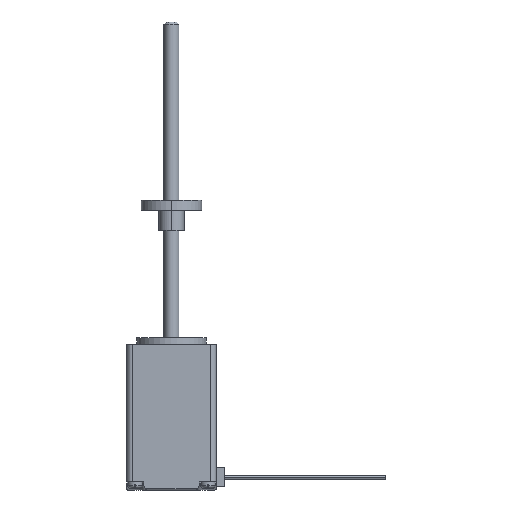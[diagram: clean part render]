
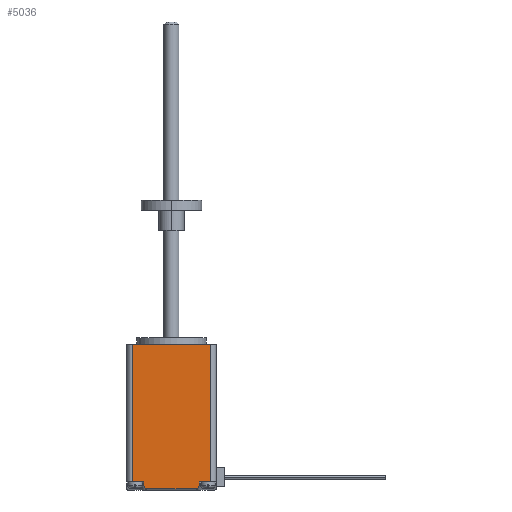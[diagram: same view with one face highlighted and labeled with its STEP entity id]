
A CAD part, left-side view. The second image highlights one B-rep face of the part: STEP entity #5036.
In plain terms, the highlighted planar face has unit normal (-1, 0, 0) as drawn and (0, -1, 0) by its records, which use the part's own axes.
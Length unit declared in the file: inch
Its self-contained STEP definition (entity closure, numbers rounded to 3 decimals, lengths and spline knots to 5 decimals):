
#201 = LINE ( 'NONE', #7251, #6997 ) ;
#332 = VERTEX_POINT ( 'NONE', #3775 ) ;
#342 = DIRECTION ( 'NONE',  ( 1., 0., 0. ) ) ;
#437 = EDGE_CURVE ( 'NONE', #332, #4330, #737, .T. ) ;
#577 = DIRECTION ( 'NONE',  ( 0., 0., -1. ) ) ;
#614 = VECTOR ( 'NONE', #577, 39.37008 ) ;
#627 = EDGE_CURVE ( 'NONE', #4313, #6635, #201, .T. ) ;
#737 = LINE ( 'NONE', #4791, #5057 ) ;
#892 = CARTESIAN_POINT ( 'NONE',  ( 0.343, -0.555, 0.1 ) ) ;
#1020 = DIRECTION ( 'NONE',  ( 0.5, 0., -0.866 ) ) ;
#1253 = VECTOR ( 'NONE', #2873, 39.37008 ) ;
#1288 = CARTESIAN_POINT ( 'NONE',  ( -0.32166, -0.555, 0.015 ) ) ;
#1319 = LINE ( 'NONE', #3697, #6642 ) ;
#1456 = ORIENTED_EDGE ( 'NONE', *, *, #5174, .T. ) ;
#1749 = EDGE_CURVE ( 'NONE', #6328, #5125, #1319, .T. ) ;
#1870 = CARTESIAN_POINT ( 'NONE',  ( -0.343, -0.555, 0.1 ) ) ;
#1975 = VERTEX_POINT ( 'NONE', #6376 ) ;
#2009 = ORIENTED_EDGE ( 'NONE', *, *, #627, .T. ) ;
#2231 = ORIENTED_EDGE ( 'NONE', *, *, #7454, .T. ) ;
#2258 = CARTESIAN_POINT ( 'NONE',  ( 0.343, -0.555, 0.1 ) ) ;
#2396 = ORIENTED_EDGE ( 'NONE', *, *, #6350, .T. ) ;
#2398 = CARTESIAN_POINT ( 'NONE',  ( -0.485, -0.555, 1.81102 ) ) ;
#2426 = EDGE_CURVE ( 'NONE', #4158, #4313, #4316, .T. ) ;
#2501 = VECTOR ( 'NONE', #342, 39.37008 ) ;
#2644 = EDGE_LOOP ( 'NONE', ( #7288, #2009, #4406, #6005, #2396, #3473, #1456, #3757, #2231, #5169 ) ) ;
#2734 = FACE_OUTER_BOUND ( 'NONE', #2644, .T. ) ;
#2735 = VECTOR ( 'NONE', #1020, 39.37008 ) ;
#2796 = CARTESIAN_POINT ( 'NONE',  ( -0.485, -0.555, 1.81102 ) ) ;
#2873 = DIRECTION ( 'NONE',  ( 0., 0., 1. ) ) ;
#3100 = DIRECTION ( 'NONE',  ( 1., 0., 0. ) ) ;
#3175 = DIRECTION ( 'NONE',  ( 0.5, 0., 0.866 ) ) ;
#3310 = CARTESIAN_POINT ( 'NONE',  ( 0.485, -0.555, 1.81102 ) ) ;
#3359 = DIRECTION ( 'NONE',  ( -1., 0., 0. ) ) ;
#3441 = CARTESIAN_POINT ( 'NONE',  ( -0.343, -0.555, 0.1 ) ) ;
#3473 = ORIENTED_EDGE ( 'NONE', *, *, #1749, .F. ) ;
#3697 = CARTESIAN_POINT ( 'NONE',  ( -0.555, -0.555, 1.81102 ) ) ;
#3757 = ORIENTED_EDGE ( 'NONE', *, *, #4038, .F. ) ;
#3775 = CARTESIAN_POINT ( 'NONE',  ( 0.485, -0.555, 0.1 ) ) ;
#3797 = AXIS2_PLACEMENT_3D ( 'NONE', #5043, #4479, #7351 ) ;
#3954 = LINE ( 'NONE', #3441, #4371 ) ;
#4006 = DIRECTION ( 'NONE',  ( 0., 0., -1. ) ) ;
#4038 = EDGE_CURVE ( 'NONE', #6236, #5527, #3954, .T. ) ;
#4111 = LINE ( 'NONE', #2398, #614 ) ;
#4122 = VECTOR ( 'NONE', #5318, 39.37008 ) ;
#4158 = VERTEX_POINT ( 'NONE', #1288 ) ;
#4279 = CARTESIAN_POINT ( 'NONE',  ( -0.555, -0.555, 0.015 ) ) ;
#4311 = CARTESIAN_POINT ( 'NONE',  ( 0.32166, -0.555, 0.015 ) ) ;
#4313 = VERTEX_POINT ( 'NONE', #4311 ) ;
#4316 = LINE ( 'NONE', #4279, #2501 ) ;
#4330 = VERTEX_POINT ( 'NONE', #892 ) ;
#4371 = VECTOR ( 'NONE', #3359, 39.37008 ) ;
#4406 = ORIENTED_EDGE ( 'NONE', *, *, #6741, .F. ) ;
#4479 = DIRECTION ( 'NONE',  ( 0., 1., 0. ) ) ;
#4752 = CARTESIAN_POINT ( 'NONE',  ( -0.343, -0.555, 0.1 ) ) ;
#4791 = CARTESIAN_POINT ( 'NONE',  ( 0.555, -0.555, 0.1 ) ) ;
#5036 = ADVANCED_FACE ( 'NONE', ( #2734 ), #6714, .F. ) ;
#5043 = CARTESIAN_POINT ( 'NONE',  ( -0.555, -0.555, 1.81102 ) ) ;
#5057 = VECTOR ( 'NONE', #7036, 39.37008 ) ;
#5125 = VERTEX_POINT ( 'NONE', #7468 ) ;
#5169 = ORIENTED_EDGE ( 'NONE', *, *, #7341, .T. ) ;
#5174 = EDGE_CURVE ( 'NONE', #6328, #5527, #4111, .T. ) ;
#5244 = LINE ( 'NONE', #4752, #4122 ) ;
#5318 = DIRECTION ( 'NONE',  ( 0., 0., -1. ) ) ;
#5389 = VECTOR ( 'NONE', #4006, 39.37008 ) ;
#5527 = VERTEX_POINT ( 'NONE', #5795 ) ;
#5553 = CARTESIAN_POINT ( 'NONE',  ( -0.343, -0.555, 0.05196 ) ) ;
#5671 = LINE ( 'NONE', #5553, #2735 ) ;
#5795 = CARTESIAN_POINT ( 'NONE',  ( -0.485, -0.555, 0.1 ) ) ;
#6005 = ORIENTED_EDGE ( 'NONE', *, *, #437, .F. ) ;
#6236 = VERTEX_POINT ( 'NONE', #1870 ) ;
#6265 = LINE ( 'NONE', #2258, #5389 ) ;
#6319 = LINE ( 'NONE', #3310, #1253 ) ;
#6328 = VERTEX_POINT ( 'NONE', #2796 ) ;
#6350 = EDGE_CURVE ( 'NONE', #332, #5125, #6319, .T. ) ;
#6376 = CARTESIAN_POINT ( 'NONE',  ( -0.343, -0.555, 0.05196 ) ) ;
#6635 = VERTEX_POINT ( 'NONE', #7369 ) ;
#6642 = VECTOR ( 'NONE', #3100, 39.37008 ) ;
#6714 = PLANE ( 'NONE',  #3797 ) ;
#6741 = EDGE_CURVE ( 'NONE', #4330, #6635, #6265, .T. ) ;
#6997 = VECTOR ( 'NONE', #3175, 39.37008 ) ;
#7036 = DIRECTION ( 'NONE',  ( -1., 0., 0. ) ) ;
#7251 = CARTESIAN_POINT ( 'NONE',  ( 0.343, -0.555, 0.05196 ) ) ;
#7288 = ORIENTED_EDGE ( 'NONE', *, *, #2426, .T. ) ;
#7341 = EDGE_CURVE ( 'NONE', #1975, #4158, #5671, .T. ) ;
#7351 = DIRECTION ( 'NONE',  ( 0., 0., 1. ) ) ;
#7369 = CARTESIAN_POINT ( 'NONE',  ( 0.343, -0.555, 0.05196 ) ) ;
#7454 = EDGE_CURVE ( 'NONE', #6236, #1975, #5244, .T. ) ;
#7468 = CARTESIAN_POINT ( 'NONE',  ( 0.485, -0.555, 1.81102 ) ) ;
